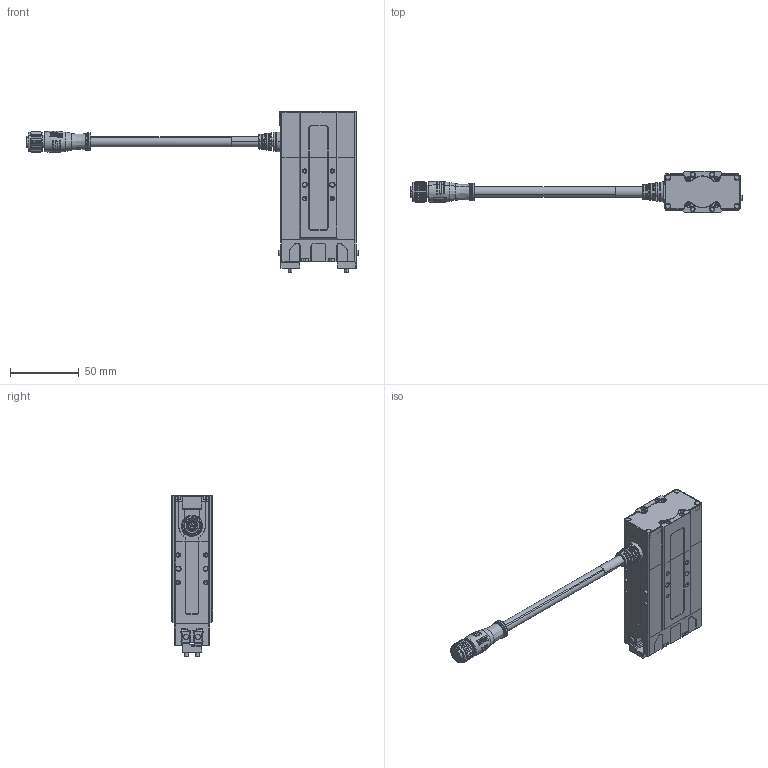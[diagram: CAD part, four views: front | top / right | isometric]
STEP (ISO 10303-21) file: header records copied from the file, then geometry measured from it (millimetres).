
FILE_DESCRIPTION (( 'STEP AP214' ), '1' );
FILE_NAME ('PGE-5-26-W-S_潠眢耀倰_v2.0_20230609.STEP', '2023-06-09T03:11:49', ( '' ), ( '' ), 'SwSTEP 2.0', 'SolidWorks 2020', '' );
FILE_SCHEMA (( 'AUTOMOTIVE_DESIGN' ));
Length unit declared in the file: millimetre
Products named in the file (13): PGE5______________.STEP; PGE-5__________.STEP; U______-CRV.STEP; PGE-5-26-W-S_潠眢耀倰_v2.0_20230609; LIGHT-PIPE.STEP; ____A.STEP; PGE-5____________.STEP; 忒硌價釱.STEP; PGE-5-____.STEP; Finger____.STEP; 翋极窒煦.STEP; M12____.STEP; 7.5____________SR.STEP
Assembly tree (14 placements, depth 3):
  PGE-5-26-W-S_潠眢耀倰_v2.0_20230609
    翋极窒煦.STEP
      PGE-5____________.STEP
      PGE-5__________.STEP
      PGE-5-____.STEP
      U______-CRV.STEP
      LIGHT-PIPE.STEP
      PGE5______________.STEP
      M12____.STEP
      7.5____________SR.STEP
    忒硌價釱.STEP  x2
      Finger____.STEP
      ____A.STEP
Bounding box: 241 x 30 x 116.5 mm (x, y, z)
Volume: 158698.2 mm3; surface area: 52613.4 mm2
Topology: 15 solids, 24 shells, 2136 faces, 5354 edges, 3311 vertices
Faces by surface type: plane 958, cylinder 474, cone 421, bspline 281, sphere 2
Full cylindrical faces by diameter (mm): 11.1 x3
Entity records: 74856 total; most frequent: CARTESIAN_POINT 32096, ORIENTED_EDGE 9528, DIRECTION 7504, EDGE_CURVE 4776, VERTEX_POINT 2997, AXIS2_PLACEMENT_3D 2738, EDGE_LOOP 2106, LINE 2028
